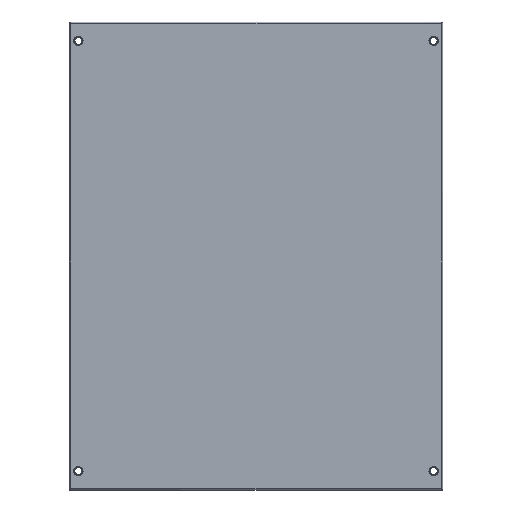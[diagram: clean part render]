
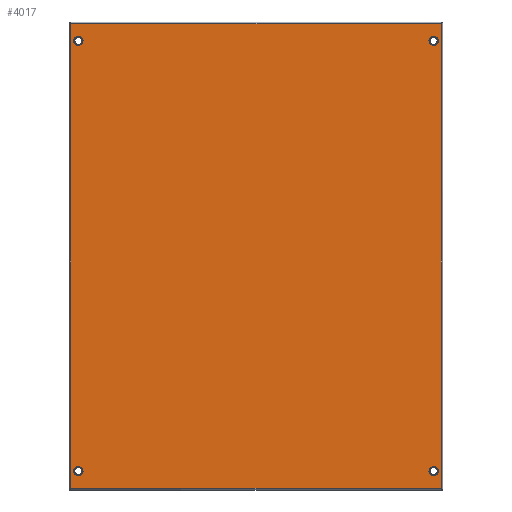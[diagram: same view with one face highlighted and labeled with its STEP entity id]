
A CAD part, top view. The second image highlights one B-rep face of the part: STEP entity #4017.
In plain terms, the highlighted planar face has unit normal (0, 0, 1).
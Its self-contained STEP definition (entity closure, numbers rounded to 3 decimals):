
#74 = CARTESIAN_POINT ( 'NONE',  ( -227., -275., 1.5 ) ) ;
#125 = ORIENTED_EDGE ( 'NONE', *, *, #5018, .F. ) ;
#172 = EDGE_CURVE ( 'NONE', #4071, #1820, #300, .T. ) ;
#189 = DIRECTION ( 'NONE',  ( 0., 0., 1. ) ) ;
#230 = FACE_OUTER_BOUND ( 'NONE', #1902, .T. ) ;
#280 = ORIENTED_EDGE ( 'NONE', *, *, #5396, .T. ) ;
#293 = DIRECTION ( 'NONE',  ( 1., 0., 0. ) ) ;
#298 = DIRECTION ( 'NONE',  ( -1., 0., 0. ) ) ;
#300 = CIRCLE ( 'NONE', #3122, 6. ) ;
#314 = EDGE_CURVE ( 'NONE', #3384, #1241, #4098, .T. ) ;
#363 = DIRECTION ( 'NONE',  ( 0., 0., 1. ) ) ;
#382 = ORIENTED_EDGE ( 'NONE', *, *, #718, .F. ) ;
#433 = DIRECTION ( 'NONE',  ( 0., 0., 1. ) ) ;
#488 = DIRECTION ( 'NONE',  ( -1., 0., 0. ) ) ;
#522 = AXIS2_PLACEMENT_3D ( 'NONE', #2923, #433, #3356 ) ;
#630 = VECTOR ( 'NONE', #1988, 1000. ) ;
#661 = AXIS2_PLACEMENT_3D ( 'NONE', #3804, #1289, #4211 ) ;
#679 = AXIS2_PLACEMENT_3D ( 'NONE', #74, #2978, #488 ) ;
#718 = EDGE_CURVE ( 'NONE', #3193, #1844, #2368, .T. ) ;
#730 = CIRCLE ( 'NONE', #522, 6. ) ;
#921 = ORIENTED_EDGE ( 'NONE', *, *, #2234, .F. ) ;
#957 = CARTESIAN_POINT ( 'NONE',  ( -238.5, 296.97, 1.5 ) ) ;
#958 = ORIENTED_EDGE ( 'NONE', *, *, #3938, .T. ) ;
#965 = AXIS2_PLACEMENT_3D ( 'NONE', #1508, #4436, #1917 ) ;
#991 = VERTEX_POINT ( 'NONE', #4303 ) ;
#999 = CARTESIAN_POINT ( 'NONE',  ( 0., 0., 1.5 ) ) ;
#1008 = CARTESIAN_POINT ( 'NONE',  ( -221., -275., 1.5 ) ) ;
#1038 = CIRCLE ( 'NONE', #5357, 6. ) ;
#1061 = VERTEX_POINT ( 'NONE', #1008 ) ;
#1169 = EDGE_CURVE ( 'NONE', #5378, #1061, #3635, .T. ) ;
#1241 = VERTEX_POINT ( 'NONE', #1446 ) ;
#1249 = CIRCLE ( 'NONE', #3999, 6. ) ;
#1265 = EDGE_LOOP ( 'NONE', ( #382, #4724 ) ) ;
#1289 = DIRECTION ( 'NONE',  ( 0., 0., 1. ) ) ;
#1324 = ORIENTED_EDGE ( 'NONE', *, *, #4668, .T. ) ;
#1338 = FACE_BOUND ( 'NONE', #3997, .T. ) ;
#1424 = DIRECTION ( 'NONE',  ( 1., 0., 0. ) ) ;
#1446 = CARTESIAN_POINT ( 'NONE',  ( -236.47, 296.97, 1.5 ) ) ;
#1508 = CARTESIAN_POINT ( 'NONE',  ( 227., -275., 1.5 ) ) ;
#1594 = CARTESIAN_POINT ( 'NONE',  ( 236.47, 299., 1.5 ) ) ;
#1709 = CARTESIAN_POINT ( 'NONE',  ( -236.47, -296.97, 1.5 ) ) ;
#1820 = VERTEX_POINT ( 'NONE', #4500 ) ;
#1844 = VERTEX_POINT ( 'NONE', #4931 ) ;
#1855 = LINE ( 'NONE', #3258, #630 ) ;
#1868 = CARTESIAN_POINT ( 'NONE',  ( -233., 275., 1.5 ) ) ;
#1902 = EDGE_LOOP ( 'NONE', ( #4193, #958, #1324, #280 ) ) ;
#1917 = DIRECTION ( 'NONE',  ( 1., 0., 0. ) ) ;
#1988 = DIRECTION ( 'NONE',  ( 0., -1., 0. ) ) ;
#2014 = VERTEX_POINT ( 'NONE', #1709 ) ;
#2234 = EDGE_CURVE ( 'NONE', #4189, #991, #5245, .T. ) ;
#2239 = VECTOR ( 'NONE', #3472, 1000. ) ;
#2368 = CIRCLE ( 'NONE', #2916, 6. ) ;
#2386 = EDGE_LOOP ( 'NONE', ( #2864, #921 ) ) ;
#2452 = CARTESIAN_POINT ( 'NONE',  ( 238.5, -296.97, 1.5 ) ) ;
#2465 = VECTOR ( 'NONE', #3729, 1000. ) ;
#2521 = VECTOR ( 'NONE', #3688, 1000. ) ;
#2676 = CARTESIAN_POINT ( 'NONE',  ( -227., 275., 1.5 ) ) ;
#2784 = DIRECTION ( 'NONE',  ( 0., 0., 1. ) ) ;
#2790 = DIRECTION ( 'NONE',  ( 0., 0., 1. ) ) ;
#2791 = CIRCLE ( 'NONE', #679, 6. ) ;
#2811 = ORIENTED_EDGE ( 'NONE', *, *, #1169, .F. ) ;
#2854 = CARTESIAN_POINT ( 'NONE',  ( 227., -275., 1.5 ) ) ;
#2864 = ORIENTED_EDGE ( 'NONE', *, *, #4270, .F. ) ;
#2916 = AXIS2_PLACEMENT_3D ( 'NONE', #5306, #2790, #298 ) ;
#2923 = CARTESIAN_POINT ( 'NONE',  ( 227., 275., 1.5 ) ) ;
#2978 = DIRECTION ( 'NONE',  ( 0., 0., 1. ) ) ;
#3000 = VERTEX_POINT ( 'NONE', #4721 ) ;
#3093 = DIRECTION ( 'NONE',  ( 1., 0., 0. ) ) ;
#3122 = AXIS2_PLACEMENT_3D ( 'NONE', #2676, #189, #3093 ) ;
#3193 = VERTEX_POINT ( 'NONE', #4406 ) ;
#3249 = CARTESIAN_POINT ( 'NONE',  ( -233., -275., 1.5 ) ) ;
#3258 = CARTESIAN_POINT ( 'NONE',  ( -236.47, -299., 1.5 ) ) ;
#3276 = CARTESIAN_POINT ( 'NONE',  ( 236.47, 296.97, 1.5 ) ) ;
#3281 = DIRECTION ( 'NONE',  ( 1., 0., 0. ) ) ;
#3356 = DIRECTION ( 'NONE',  ( -1., 0., 0. ) ) ;
#3384 = VERTEX_POINT ( 'NONE', #3276 ) ;
#3436 = FACE_BOUND ( 'NONE', #4375, .T. ) ;
#3472 = DIRECTION ( 'NONE',  ( -1., 0., 0. ) ) ;
#3496 = ORIENTED_EDGE ( 'NONE', *, *, #172, .F. ) ;
#3518 = PLANE ( 'NONE',  #3829 ) ;
#3533 = LINE ( 'NONE', #1594, #2521 ) ;
#3635 = CIRCLE ( 'NONE', #661, 6. ) ;
#3688 = DIRECTION ( 'NONE',  ( 0., 1., 0. ) ) ;
#3729 = DIRECTION ( 'NONE',  ( 1., 0., 0. ) ) ;
#3804 = CARTESIAN_POINT ( 'NONE',  ( -227., -275., 1.5 ) ) ;
#3829 = AXIS2_PLACEMENT_3D ( 'NONE', #999, #3936, #1424 ) ;
#3936 = DIRECTION ( 'NONE',  ( 0., 0., 1. ) ) ;
#3938 = EDGE_CURVE ( 'NONE', #1241, #2014, #1855, .T. ) ;
#3997 = EDGE_LOOP ( 'NONE', ( #125, #3496 ) ) ;
#3999 = AXIS2_PLACEMENT_3D ( 'NONE', #2854, #363, #3281 ) ;
#4017 = ADVANCED_FACE ( 'NONE', ( #4678, #1338, #230, #4546, #3436 ), #3518, .T. ) ;
#4043 = CARTESIAN_POINT ( 'NONE',  ( 221., -275., 1.5 ) ) ;
#4071 = VERTEX_POINT ( 'NONE', #1868 ) ;
#4098 = LINE ( 'NONE', #957, #2239 ) ;
#4189 = VERTEX_POINT ( 'NONE', #4043 ) ;
#4193 = ORIENTED_EDGE ( 'NONE', *, *, #314, .T. ) ;
#4211 = DIRECTION ( 'NONE',  ( -1., 0., 0. ) ) ;
#4270 = EDGE_CURVE ( 'NONE', #991, #4189, #1249, .T. ) ;
#4303 = CARTESIAN_POINT ( 'NONE',  ( 233., -275., 1.5 ) ) ;
#4369 = EDGE_CURVE ( 'NONE', #1844, #3193, #730, .T. ) ;
#4375 = EDGE_LOOP ( 'NONE', ( #2811, #5231 ) ) ;
#4406 = CARTESIAN_POINT ( 'NONE',  ( 221., 275., 1.5 ) ) ;
#4436 = DIRECTION ( 'NONE',  ( 0., 0., 1. ) ) ;
#4500 = CARTESIAN_POINT ( 'NONE',  ( -221., 275., 1.5 ) ) ;
#4546 = FACE_BOUND ( 'NONE', #1265, .T. ) ;
#4668 = EDGE_CURVE ( 'NONE', #2014, #3000, #5103, .T. ) ;
#4678 = FACE_BOUND ( 'NONE', #2386, .T. ) ;
#4721 = CARTESIAN_POINT ( 'NONE',  ( 236.47, -296.97, 1.5 ) ) ;
#4724 = ORIENTED_EDGE ( 'NONE', *, *, #4369, .F. ) ;
#4931 = CARTESIAN_POINT ( 'NONE',  ( 233., 275., 1.5 ) ) ;
#5018 = EDGE_CURVE ( 'NONE', #1820, #4071, #1038, .T. ) ;
#5103 = LINE ( 'NONE', #2452, #2465 ) ;
#5231 = ORIENTED_EDGE ( 'NONE', *, *, #5300, .F. ) ;
#5245 = CIRCLE ( 'NONE', #965, 6. ) ;
#5300 = EDGE_CURVE ( 'NONE', #1061, #5378, #2791, .T. ) ;
#5302 = CARTESIAN_POINT ( 'NONE',  ( -227., 275., 1.5 ) ) ;
#5306 = CARTESIAN_POINT ( 'NONE',  ( 227., 275., 1.5 ) ) ;
#5357 = AXIS2_PLACEMENT_3D ( 'NONE', #5302, #2784, #293 ) ;
#5378 = VERTEX_POINT ( 'NONE', #3249 ) ;
#5396 = EDGE_CURVE ( 'NONE', #3000, #3384, #3533, .T. ) ;
